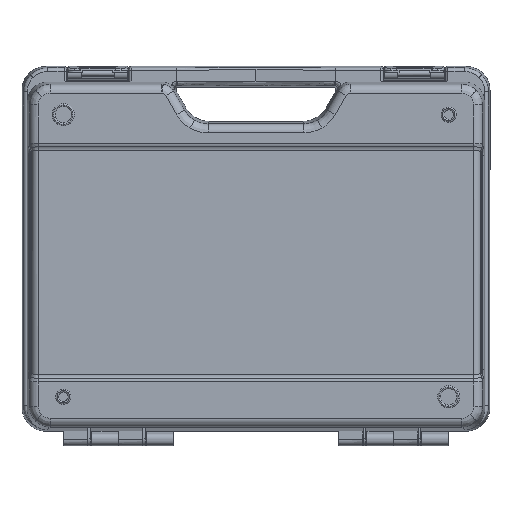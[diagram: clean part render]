
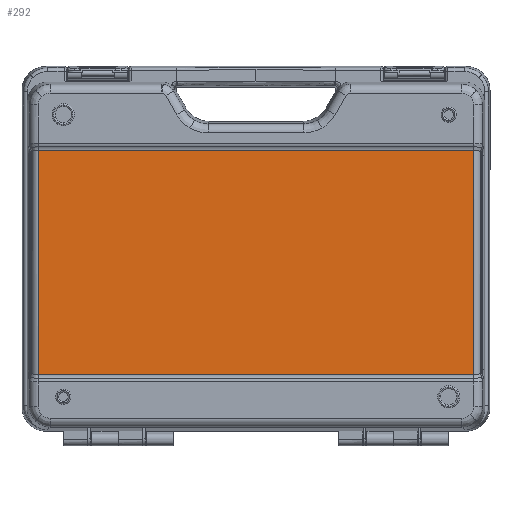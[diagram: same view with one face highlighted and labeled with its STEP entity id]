
A CAD part, front view. The second image highlights one B-rep face of the part: STEP entity #292.
In plain terms, the highlighted planar face has unit normal (0, -1, 0).
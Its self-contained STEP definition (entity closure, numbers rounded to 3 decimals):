
#292 = ADVANCED_FACE ( 'NONE', ( #16238 ), #22563, .T. ) ;
#879 = LINE ( 'NONE', #16574, #13991 ) ;
#907 = CARTESIAN_POINT ( 'NONE',  ( -158.05, -38.5, 76.429 ) ) ;
#1246 = EDGE_CURVE ( 'NONE', #16779, #22122, #7572, .T. ) ;
#1392 = ORIENTED_EDGE ( 'NONE', *, *, #2791, .T. ) ;
#1525 = AXIS2_PLACEMENT_3D ( 'NONE', #18066, #5710, #16350 ) ;
#2125 = CARTESIAN_POINT ( 'NONE',  ( 158.05, -38.5, -86.429 ) ) ;
#2791 = EDGE_CURVE ( 'NONE', #14069, #16779, #879, .T. ) ;
#5071 = CARTESIAN_POINT ( 'NONE',  ( 158.05, -38.5, 76.429 ) ) ;
#5604 = ORIENTED_EDGE ( 'NONE', *, *, #1246, .T. ) ;
#5710 = DIRECTION ( 'NONE',  ( 0., -1., 0. ) ) ;
#6261 = VECTOR ( 'NONE', #19714, 1000. ) ;
#6266 = EDGE_CURVE ( 'NONE', #22122, #19283, #16911, .T. ) ;
#7138 = ORIENTED_EDGE ( 'NONE', *, *, #6266, .T. ) ;
#7417 = EDGE_LOOP ( 'NONE', ( #7138, #17361, #1392, #5604 ) ) ;
#7572 = LINE ( 'NONE', #907, #6261 ) ;
#8441 = DIRECTION ( 'NONE',  ( 0., 0., -1. ) ) ;
#9106 = CARTESIAN_POINT ( 'NONE',  ( -158.05, -38.5, -86.429 ) ) ;
#11882 = CARTESIAN_POINT ( 'NONE',  ( -158.05, -38.5, -90. ) ) ;
#12848 = VECTOR ( 'NONE', #19366, 1000. ) ;
#13991 = VECTOR ( 'NONE', #14851, 1000. ) ;
#14069 = VERTEX_POINT ( 'NONE', #2125 ) ;
#14108 = LINE ( 'NONE', #21086, #12848 ) ;
#14828 = VECTOR ( 'NONE', #8441, 1000. ) ;
#14851 = DIRECTION ( 'NONE',  ( 0., 0., 1. ) ) ;
#14946 = EDGE_CURVE ( 'NONE', #19283, #14069, #14108, .T. ) ;
#16238 = FACE_OUTER_BOUND ( 'NONE', #7417, .T. ) ;
#16350 = DIRECTION ( 'NONE',  ( 0., 0., -1. ) ) ;
#16574 = CARTESIAN_POINT ( 'NONE',  ( 158.05, -38.5, -90. ) ) ;
#16779 = VERTEX_POINT ( 'NONE', #5071 ) ;
#16911 = LINE ( 'NONE', #11882, #14828 ) ;
#17361 = ORIENTED_EDGE ( 'NONE', *, *, #14946, .T. ) ;
#18066 = CARTESIAN_POINT ( 'NONE',  ( -175., -38.5, -90. ) ) ;
#19283 = VERTEX_POINT ( 'NONE', #9106 ) ;
#19366 = DIRECTION ( 'NONE',  ( 1., 0., 0. ) ) ;
#19714 = DIRECTION ( 'NONE',  ( -1., 0., 0. ) ) ;
#21086 = CARTESIAN_POINT ( 'NONE',  ( 158.05, -38.5, -86.429 ) ) ;
#21816 = CARTESIAN_POINT ( 'NONE',  ( -158.05, -38.5, 76.429 ) ) ;
#22122 = VERTEX_POINT ( 'NONE', #21816 ) ;
#22563 = PLANE ( 'NONE',  #1525 ) ;
